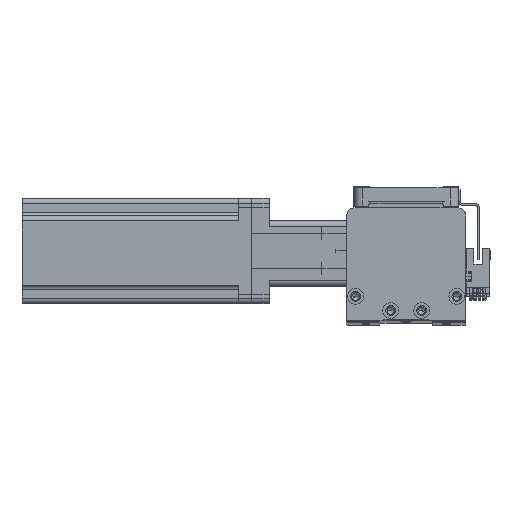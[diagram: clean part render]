
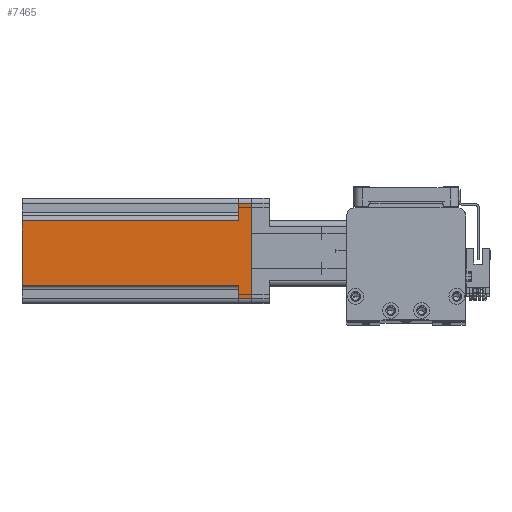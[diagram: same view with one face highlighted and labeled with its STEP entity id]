
A CAD part, top view. The second image highlights one B-rep face of the part: STEP entity #7465.
In plain terms, the highlighted planar face has unit normal (0, 0, 1) as drawn and (-1, 0, 0) by its records, which use the part's own axes.
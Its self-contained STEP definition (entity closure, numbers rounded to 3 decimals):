
#18 = EDGE_CURVE ( 'NONE', #25951, #37081, #8700, .T. ) ;
#71 = EDGE_CURVE ( 'NONE', #13794, #24061, #13828, .T. ) ;
#828 = VERTEX_POINT ( 'NONE', #10831 ) ;
#1572 = EDGE_CURVE ( 'NONE', #33203, #33831, #20902, .T. ) ;
#1610 = VECTOR ( 'NONE', #11588, 1000. ) ;
#1836 = EDGE_CURVE ( 'NONE', #13794, #828, #41852, .T. ) ;
#3027 = VECTOR ( 'NONE', #15325, 1000. ) ;
#3361 = VECTOR ( 'NONE', #44140, 1000. ) ;
#3712 = ORIENTED_EDGE ( 'NONE', *, *, #10071, .T. ) ;
#4365 = DIRECTION ( 'NONE',  ( 0., -1., 0. ) ) ;
#5198 = EDGE_CURVE ( 'NONE', #37081, #42712, #8652, .T. ) ;
#6973 = CARTESIAN_POINT ( 'NONE',  ( -30., 27., 130.7 ) ) ;
#7465 = ADVANCED_FACE ( 'NONE', ( #14374 ), #21596, .F. ) ;
#8652 = LINE ( 'NONE', #19943, #44826 ) ;
#8700 = LINE ( 'NONE', #35811, #26810 ) ;
#9481 = ORIENTED_EDGE ( 'NONE', *, *, #1572, .T. ) ;
#10071 = EDGE_CURVE ( 'NONE', #828, #25951, #10533, .T. ) ;
#10533 = LINE ( 'NONE', #6973, #38254 ) ;
#10831 = CARTESIAN_POINT ( 'NONE',  ( -30., 27., 7.5 ) ) ;
#10906 = CARTESIAN_POINT ( 'NONE',  ( -30., -17., 130.7 ) ) ;
#11588 = DIRECTION ( 'NONE',  ( 0., 0., 1. ) ) ;
#11684 = CARTESIAN_POINT ( 'NONE',  ( -30., 27., 0. ) ) ;
#11760 = CARTESIAN_POINT ( 'NONE',  ( -30., -17., 130.7 ) ) ;
#12712 = CARTESIAN_POINT ( 'NONE',  ( -30., 20., 7.5 ) ) ;
#12850 = DIRECTION ( 'NONE',  ( 0., -1., 0. ) ) ;
#13794 = VERTEX_POINT ( 'NONE', #12712 ) ;
#13828 = LINE ( 'NONE', #43869, #3027 ) ;
#14374 = FACE_OUTER_BOUND ( 'NONE', #38088, .T. ) ;
#14483 = CARTESIAN_POINT ( 'NONE',  ( -30., -30., 130.7 ) ) ;
#15325 = DIRECTION ( 'NONE',  ( 0., 0., 1. ) ) ;
#15426 = ORIENTED_EDGE ( 'NONE', *, *, #18, .T. ) ;
#17198 = CARTESIAN_POINT ( 'NONE',  ( -30., -27., 7.5 ) ) ;
#18091 = DIRECTION ( 'NONE',  ( 0., 0., -1. ) ) ;
#19828 = CARTESIAN_POINT ( 'NONE',  ( -30., 20., 130.7 ) ) ;
#19943 = CARTESIAN_POINT ( 'NONE',  ( -30., -27., 130.7 ) ) ;
#20902 = LINE ( 'NONE', #11760, #1610 ) ;
#20904 = VECTOR ( 'NONE', #12850, 1000. ) ;
#21596 = PLANE ( 'NONE',  #28917 ) ;
#22720 = VECTOR ( 'NONE', #4365, 1000. ) ;
#23899 = EDGE_CURVE ( 'NONE', #24061, #33831, #34590, .T. ) ;
#24061 = VERTEX_POINT ( 'NONE', #19828 ) ;
#24253 = ORIENTED_EDGE ( 'NONE', *, *, #5198, .T. ) ;
#25951 = VERTEX_POINT ( 'NONE', #11684 ) ;
#26810 = VECTOR ( 'NONE', #37772, 1000. ) ;
#28807 = DIRECTION ( 'NONE',  ( 0., 0., -1. ) ) ;
#28917 = AXIS2_PLACEMENT_3D ( 'NONE', #14483, #39712, #18091 ) ;
#33203 = VERTEX_POINT ( 'NONE', #46776 ) ;
#33682 = ORIENTED_EDGE ( 'NONE', *, *, #71, .F. ) ;
#33831 = VERTEX_POINT ( 'NONE', #10906 ) ;
#34522 = CARTESIAN_POINT ( 'NONE',  ( -30., -30., 7.5 ) ) ;
#34590 = LINE ( 'NONE', #36748, #22720 ) ;
#35811 = CARTESIAN_POINT ( 'NONE',  ( -30., -30., 0. ) ) ;
#36204 = CARTESIAN_POINT ( 'NONE',  ( -30., -27., 0. ) ) ;
#36472 = ORIENTED_EDGE ( 'NONE', *, *, #45202, .F. ) ;
#36748 = CARTESIAN_POINT ( 'NONE',  ( -30., -30., 130.7 ) ) ;
#37081 = VERTEX_POINT ( 'NONE', #36204 ) ;
#37772 = DIRECTION ( 'NONE',  ( 0., -1., 0. ) ) ;
#38088 = EDGE_LOOP ( 'NONE', ( #36472, #9481, #41611, #33682, #46203, #3712, #15426, #24253 ) ) ;
#38254 = VECTOR ( 'NONE', #28807, 1000. ) ;
#38969 = LINE ( 'NONE', #34522, #20904 ) ;
#39712 = DIRECTION ( 'NONE',  ( 1., 0., 0. ) ) ;
#41592 = DIRECTION ( 'NONE',  ( 0., 0., 1. ) ) ;
#41611 = ORIENTED_EDGE ( 'NONE', *, *, #23899, .F. ) ;
#41852 = LINE ( 'NONE', #43402, #3361 ) ;
#42712 = VERTEX_POINT ( 'NONE', #17198 ) ;
#43402 = CARTESIAN_POINT ( 'NONE',  ( -30., 30., 7.5 ) ) ;
#43869 = CARTESIAN_POINT ( 'NONE',  ( -30., 20., 7.5 ) ) ;
#44140 = DIRECTION ( 'NONE',  ( 0., 1., 0. ) ) ;
#44826 = VECTOR ( 'NONE', #41592, 1000. ) ;
#45202 = EDGE_CURVE ( 'NONE', #33203, #42712, #38969, .T. ) ;
#46203 = ORIENTED_EDGE ( 'NONE', *, *, #1836, .T. ) ;
#46776 = CARTESIAN_POINT ( 'NONE',  ( -30., -17., 7.5 ) ) ;
